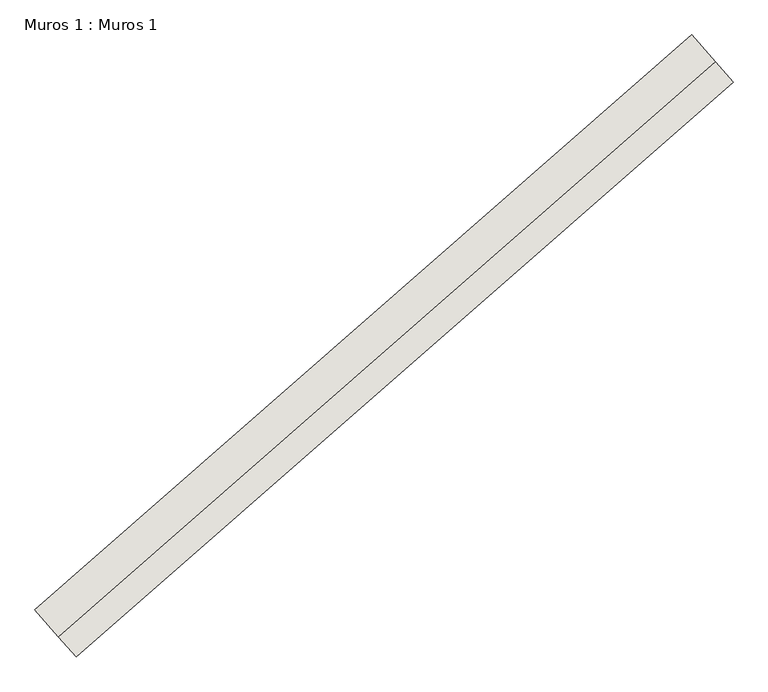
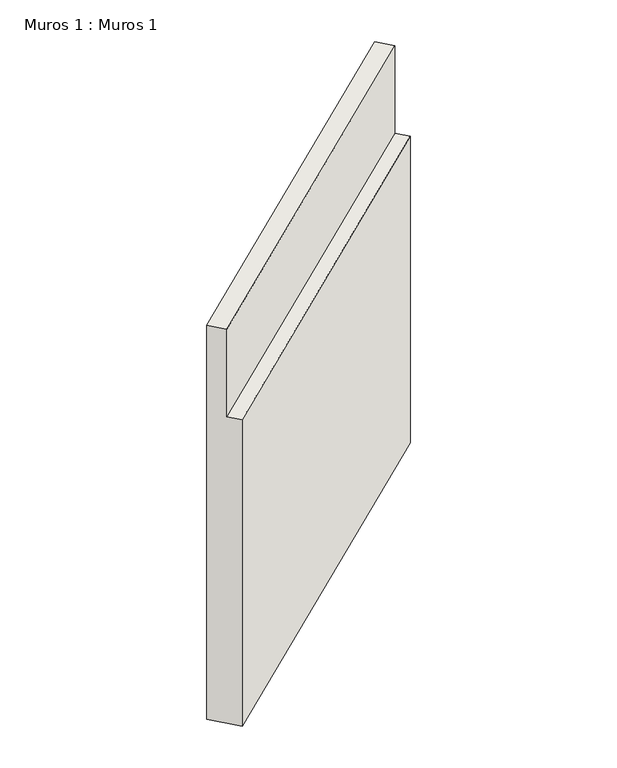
"""IFC4 building model written with IfcOpenShell, lengths in millimetres: wall geometry, Muros 1 : Muros 1."""

from ifc_helpers import new_model, si_unit, origin, place, context, project, spatial, faceted_brep, source, transform, mapped, element, save


def muros_1_muros_1_9b1cf35a(model_context):
    return source(origin(), model_context, "Body", "Brep", [
        faceted_brep([(606784.4513666, 535207.2870403, 659567.0), (606916.2035199, 535056.8165446, 659567.0), (606916.2035199, 535056.8165446, 658567.0), (607015.0176349, 534943.9636728, 658567.0), (607015.0176349, 534943.9636728, 655067.0), (606784.4513666, 535207.2870403, 655067.0), (603112.859225, 531992.4363918, 659567.0), (603112.859225, 531992.4363918, 655067.0), (603343.4254929, 531729.1130247, 655067.0), (603343.4254929, 531729.1130247, 658567.0), (603244.6113781, 531841.9658963, 658567.0), (603244.6113781, 531841.9658963, 659567.0)], [[[0, 1, 2, 3, 4, 5]], [[6, 7, 8, 9, 10, 11]], [[6, 11, 1, 0]], [[11, 10, 2, 1]], [[10, 9, 3, 2]], [[9, 8, 4, 3]], [[8, 7, 5, 4]], [[7, 6, 0, 5]]]),
    ])


if __name__ == "__main__":
    model = new_model("IFC4")
    model_context = context("Model", 3, world=origin())
    ifc_project = project(units=[si_unit("LENGTHUNIT", "METRE", prefix="MILLI")], contexts=[model_context])
    site = spatial("IfcSite", under=ifc_project)
    building = spatial("IfcBuilding", under=site)
    placement = place(None, origin())
    muros_1_muros_1_shape = muros_1_muros_1_9b1cf35a(model_context)
    element("IfcWall", 1, ObjectType="Muros 1 : Muros 1", at=placement, inside=building, context=model_context, shape_type="MappedRepresentation", body=[
        mapped(muros_1_muros_1_shape, transform((0.0, 0.0, 0.0), x_axis=(1.0, 0.0, 0.0), y_axis=(0.0, 1.0, 0.0), z_axis=(0.0, 0.0, 1.0))),
    ])
    save(model, "model.ifc")
